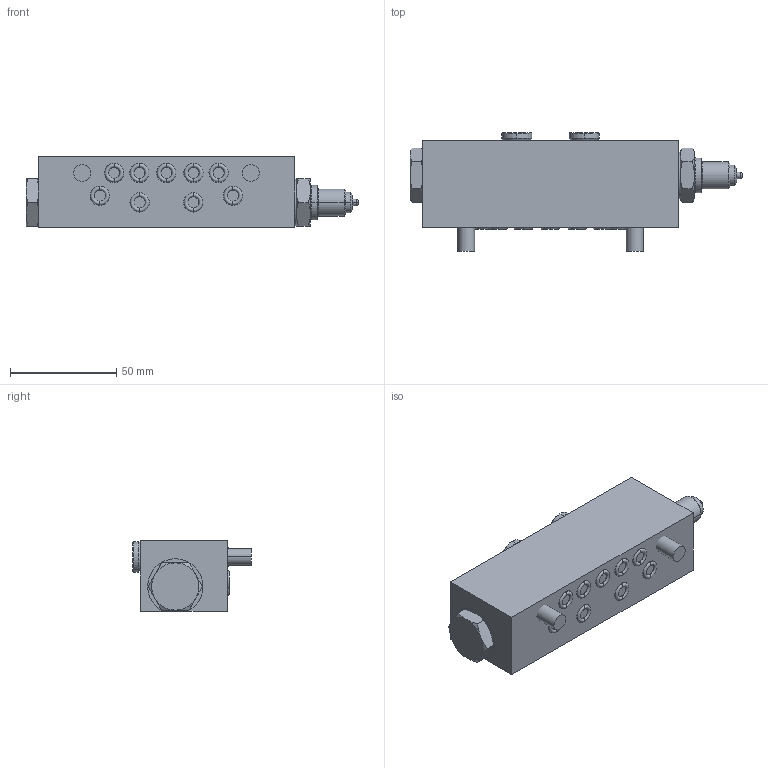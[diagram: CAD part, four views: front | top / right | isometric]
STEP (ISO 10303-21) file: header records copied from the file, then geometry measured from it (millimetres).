
FILE_DESCRIPTION((''),'2;1');
FILE_NAME('562825-EN-H_PRT','2020-03-05T07:49:24',('qusrh3'),(''),'CREO PARAMETRIC BY PTC INC, 2019030','CREO PARAMETRIC BY PTC INC, 2019030','');
FILE_SCHEMA(('CONFIG_CONTROL_DESIGN'));
Length unit declared in the file: inch
Products named in the file (1): 562825-EN-H_PRT
Bounding box: 156.3 x 55.93 x 33.03 mm (x, y, z)
Surface area: 28774.4 mm2 (no closed solid volume)
Topology: 0 solids, 38 shells, 146 faces, 341 edges, 216 vertices
Faces by surface type: torus 40, plane 39, cylinder 38, cone 27, bspline 2
Entity records: 4400 total; most frequent: CARTESIAN_POINT 1026, DIRECTION 813, ORIENTED_EDGE 568, AXIS2_PLACEMENT_3D 365, EDGE_CURVE 341, CIRCLE 221, VERTEX_POINT 216, EDGE_LOOP 146
